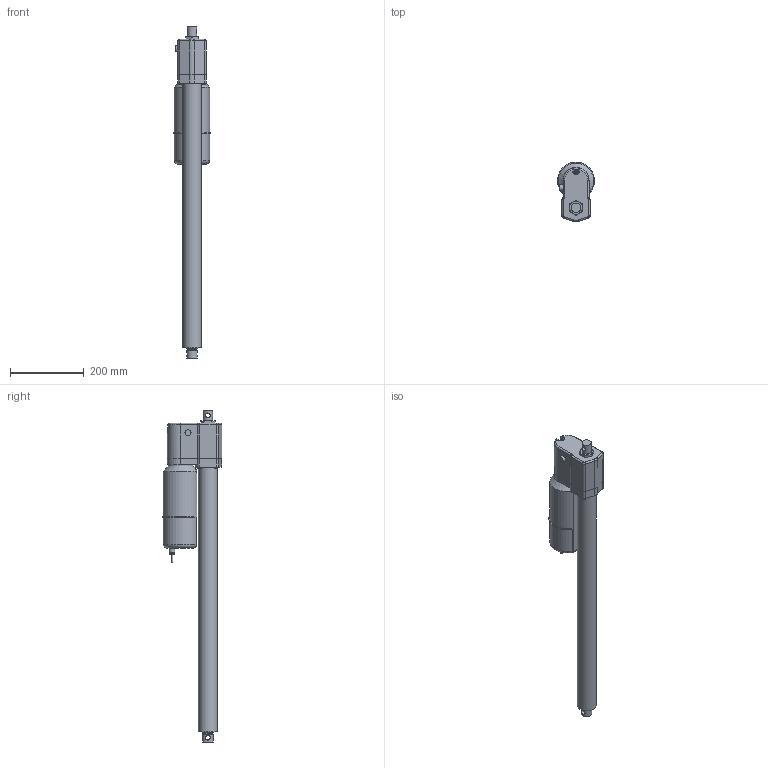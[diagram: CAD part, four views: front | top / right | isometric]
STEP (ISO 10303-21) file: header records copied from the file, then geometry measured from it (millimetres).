
FILE_DESCRIPTION (( 'STEP AP214' ), '1' );
FILE_NAME ('A22-05A5-24M0NPO-tollo.step', '2020-04-05T13:09:18', ( '' ), ( '' ), 'SwSTEP 2.0', 'SolidWorks 2010', '' );
FILE_SCHEMA (( 'AUTOMOTIVE_DESIGN' ));
Length unit declared in the file: millimetre
Products named in the file (7): Electrak-LA5-Motor-A22-05A5-24M0NPO-tollo_Electrak-LA5-Motor-A22-05A5-24M0NPO-tollo; Electrak-LA5-Rear-A22-05A5-24M0NPO-tollo_Electrak-LA5-Rear-A22-05A5-24M0NPO-tollo; Electrak-LA5-Tube-A22-05A5-24M0NPO-tollo_Electrak-LA5-Tube-A22-05A5-24M0NPO-tollo; Electrak-LA5-Rod-A22-05A5-24M0NPO-tollo_Electrak-LA5-Rod-A22-05A5-24M0NPO-tollo; Screw-MFX-H-M5-A22-05A5-24M0NPO-tollo_Screw-MFX-H-M5-A22-05A5-24M0NPO-tollo; Screw-M6S-M5-A22-05A5-24M0NPO-tollo_Screw-M6S-M5-A22-05A5-24M0NPO-tollo; A22-05A5-24M0NPO-tollo
Assembly tree (9 placements, depth 2):
  A22-05A5-24M0NPO-tollo
    Screw-M6S-M5-A22-05A5-24M0NPO-tollo_Screw-M6S-M5-A22-05A5-24M0NPO-tollo  x4
    Electrak-LA5-Rear-A22-05A5-24M0NPO-tollo_Electrak-LA5-Rear-A22-05A5-24M0NPO-tollo
    Electrak-LA5-Tube-A22-05A5-24M0NPO-tollo_Electrak-LA5-Tube-A22-05A5-24M0NPO-tollo
    Electrak-LA5-Rod-A22-05A5-24M0NPO-tollo_Electrak-LA5-Rod-A22-05A5-24M0NPO-tollo
    Electrak-LA5-Motor-A22-05A5-24M0NPO-tollo_Electrak-LA5-Motor-A22-05A5-24M0NPO-tollo
    Screw-MFX-H-M5-A22-05A5-24M0NPO-tollo_Screw-MFX-H-M5-A22-05A5-24M0NPO-tollo
Bounding box: 100.99 x 162.5 x 902 mm (x, y, z)
Volume: 4168185.7 mm3; surface area: 418114.7 mm2
Topology: 9 solids, 9 shells, 240 faces, 553 edges, 350 vertices
Faces by surface type: plane 96, cylinder 93, cone 31, torus 15, bspline 3, sphere 2
Full cylindrical faces by diameter (mm): 4 x1, 4.126 x5, 4.8 x2, 5 x13, 7.878 x4, 9.3 x1, 10 x1, 12.8 x2, 15 x2, 16.5 x1, 25.4 x1, 28.6 x4, 51.3 x1, 68 x1
Entity records: 5816 total; most frequent: CARTESIAN_POINT 1727, DIRECTION 814, ORIENTED_EDGE 670, AXIS2_PLACEMENT_3D 343, EDGE_CURVE 335, EDGE_LOOP 249, VERTEX_POINT 238, FACE_OUTER_BOUND 201
